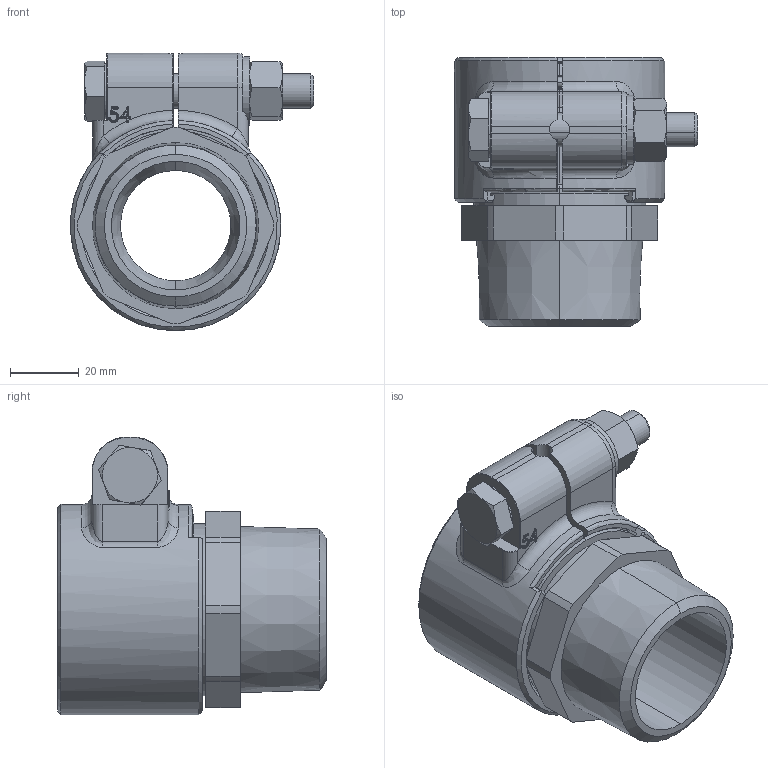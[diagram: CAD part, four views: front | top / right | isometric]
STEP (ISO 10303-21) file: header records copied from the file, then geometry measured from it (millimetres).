
FILE_DESCRIPTION (( 'STEP AP203' ), '1' );
FILE_NAME ('KP_C14-54M.step', '2011-08-08T12:03:23', ( '' ), ( '' ), 'SwSTEP 2.0', 'SolidWorks 2011', '' );
FILE_SCHEMA (( 'CONFIG_CONTROL_DESIGN' ));
Length unit declared in the file: millimetre
Products named in the file (1): KP_C14-54M
Bounding box: 70.5 x 78 x 80.5 mm (x, y, z)
Volume: 97176.6 mm3; surface area: 48610.3 mm2
Topology: 3 solids, 3 shells, 408 faces, 972 edges, 566 vertices
Faces by surface type: cylinder 151, plane 103, torus 60, cone 40, bspline 39, sphere 15
Entity records: 14020 total; most frequent: CARTESIAN_POINT 4753, DIRECTION 1981, ORIENTED_EDGE 1914, EDGE_CURVE 957, AXIS2_PLACEMENT_3D 807, VERTEX_POINT 566, CIRCLE 437, EDGE_LOOP 427
